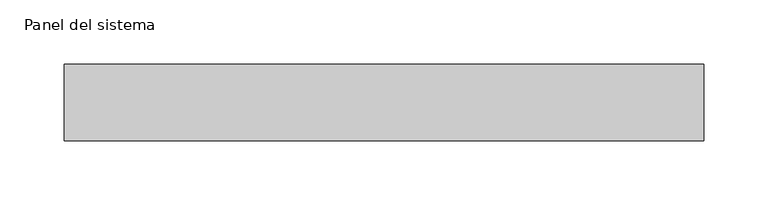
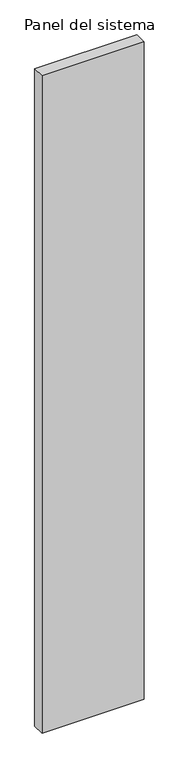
"""IFC4 building model written with IfcOpenShell, lengths in millimetres: plate geometry, Panel del sistema : HIANSA PANEL - PANELES DE CUBIERTA SIN TAPAJUNTA - EASY CUB 3GR - Esp. 60mm."""

import ifcopenshell
import ifcopenshell.guid

model = None  # the IFC model being written
_history = None  # IfcOwnerHistory: only IFC2X3 demands one
_inside = {}  # id of a spatial element -> (the spatial element, [elements in it])
_under = {}  # id of a project, library or spatial element -> (it, [spatial elements below it])
_declared = {}  # id of a project -> (the project, [libraries it declares])
_typed = {}  # id of a type object -> (the type object, [elements of that type])
_made_of = {}  # id of a material, layer set ... -> (it, [elements and type objects made of it])


def new_model(schema):
    """Start an empty IFC model of exactly this schema.

    Asked for "IFC4X3", IfcOpenShell would pick the latest addendum, in which some entities
    have other attributes; the version numbers below select the first issue.
    IFC2X3 requires an IfcOwnerHistory on every rooted entity: one is made here for all.
    """
    global model, _history
    if schema == "IFC4X3":
        model = ifcopenshell.file(schema_version=(4, 3, 0, 0))
    else:
        model = ifcopenshell.file(schema=schema)
    _inside.clear()
    _under.clear()
    _declared.clear()
    _typed.clear()
    _made_of.clear()
    _history = None
    if model.schema == "IFC2X3":
        org = make("IfcOrganization", Name="unknown")
        user = make(
            "IfcPersonAndOrganization",
            ThePerson=make("IfcPerson", FamilyName="unknown"),
            TheOrganization=org,
        )
        app = make(
            "IfcApplication",
            ApplicationDeveloper=org,
            Version="unknown",
            ApplicationFullName="unknown",
            ApplicationIdentifier="unknown",
        )
        _history = make(
            "IfcOwnerHistory",
            OwningUser=user,
            OwningApplication=app,
            ChangeAction="ADDED",
            CreationDate=0,
        )
    return model


def make(cls, **values):
    """One entity of the class cls with the attributes given. An attribute that is None is left unset."""
    return model.create_entity(
        cls, **{name: value for name, value in values.items() if value is not None}
    )


def rooted(cls, **values):
    """An entity with a GlobalId (a new one), such as an element, a storey or a relation."""
    return make(cls, GlobalId=ifcopenshell.guid.new(), OwnerHistory=_history, **values)


def si_unit(unit_type, name, prefix=None):
    """IfcSIUnit, for example si_unit("LENGTHUNIT", "METRE", prefix="MILLI")."""
    return make("IfcSIUnit", UnitType=unit_type, Prefix=prefix, Name=name)


def assignment(units):
    """IfcUnitAssignment: the units of a project."""
    return None if units is None else make("IfcUnitAssignment", Units=units)


def point(xyz):
    """IfcCartesianPoint."""
    return None if xyz is None else make("IfcCartesianPoint", Coordinates=xyz)


def direction(xyz):
    """IfcDirection."""
    return None if xyz is None else make("IfcDirection", DirectionRatios=xyz)


def frame(location, z_axis=None, x_axis=None):
    """IfcAxis2Placement3D, a coordinate frame: its origin and axes. An axis left out is left unset."""
    return make(
        "IfcAxis2Placement3D",
        Location=point(location),
        Axis=direction(z_axis),
        RefDirection=direction(x_axis),
    )


def origin():
    """The frame at (0, 0, 0) with its axes left unset."""
    return frame((0.0, 0.0, 0.0))


def origin_with_axes():
    """The frame at (0, 0, 0) with the z axis (0, 0, 1) and the x axis (1, 0, 0) written out."""
    return frame((0.0, 0.0, 0.0), z_axis=(0.0, 0.0, 1.0), x_axis=(1.0, 0.0, 0.0))


def place(relative_to, where):
    """IfcLocalPlacement: puts the frame where relative to a parent placement (None: the world)."""
    return make(
        "IfcLocalPlacement", PlacementRelTo=relative_to, RelativePlacement=where
    )


def context(
    kind, dimensions, precision=None, world=None, true_north=None, identifier=None
):
    """IfcGeometricRepresentationContext, for example the 3D "Model" context."""
    return make(
        "IfcGeometricRepresentationContext",
        ContextIdentifier=identifier,
        ContextType=kind,
        CoordinateSpaceDimension=dimensions,
        Precision=precision,
        WorldCoordinateSystem=world,
        TrueNorth=true_north,
    )


def project(units=None, contexts=None):
    """IfcProject with its units and contexts."""
    return rooted(
        "IfcProject",
        Name="project",
        RepresentationContexts=contexts,
        UnitsInContext=assignment(units),
    )


def spatial(cls, under=None, at=None, **own):
    """A site, building, storey or space (cls), placed at a placement, below another one or the project."""
    s = rooted(cls, ObjectPlacement=at, **own)
    if under is not None:
        _under.setdefault(under.id(), (under, []))[1].append(s)
    return s


def polyline(points):
    """IfcPolyline through the points."""
    return make("IfcPolyline", Points=[point(p) for p in points])


def outline(outer, holes=None, kind="AREA"):
    """IfcArbitraryClosedProfileDef: a profile drawn as a closed curve; with holes, ...WithVoids."""
    if holes is None:
        return make("IfcArbitraryClosedProfileDef", ProfileType=kind, OuterCurve=outer)
    return make(
        "IfcArbitraryProfileDefWithVoids",
        ProfileType=kind,
        OuterCurve=outer,
        InnerCurves=holes,
    )


def extrude(swept, where, along, depth):
    """IfcExtrudedAreaSolid: the profile swept, set in the frame where, extruded along a direction by depth."""
    return make(
        "IfcExtrudedAreaSolid",
        SweptArea=swept,
        Position=where,
        ExtrudedDirection=direction(along),
        Depth=depth,
    )


def shape(context_of_items, identifier, shape_type, items):
    """IfcShapeRepresentation: the items that make up one representation, for example the "Body"."""
    return make(
        "IfcShapeRepresentation",
        ContextOfItems=context_of_items,
        RepresentationIdentifier=identifier,
        RepresentationType=shape_type,
        Items=items,
    )


def source(mapping_origin, context_of_items, identifier, shape_type, items):
    """IfcRepresentationMap: a shape defined once, which mapped items show again and again."""
    return make(
        "IfcRepresentationMap",
        MappingOrigin=mapping_origin,
        MappedRepresentation=shape(context_of_items, identifier, shape_type, items),
    )


def transform(
    local_origin,
    x_axis=None,
    y_axis=None,
    z_axis=None,
    scale=None,
    scale2=None,
    scale3=None,
    uniform=True,
):
    """IfcCartesianTransformationOperator3D, or its non-uniform kind. x_axis, y_axis, z_axis: its Axis1, 2, 3."""
    if uniform:
        return make(
            "IfcCartesianTransformationOperator3D",
            Axis1=direction(x_axis),
            Axis2=direction(y_axis),
            LocalOrigin=point(local_origin),
            Scale=scale,
            Axis3=direction(z_axis),
        )
    return make(
        "IfcCartesianTransformationOperator3DnonUniform",
        Axis1=direction(x_axis),
        Axis2=direction(y_axis),
        LocalOrigin=point(local_origin),
        Scale=scale,
        Axis3=direction(z_axis),
        Scale2=scale2,
        Scale3=scale3,
    )


def mapped(mapping_source, mapping_target):
    """IfcMappedItem: shows the shape of a source again, moved by a transform."""
    return make(
        "IfcMappedItem", MappingSource=mapping_source, MappingTarget=mapping_target
    )


def made_of(thing, what):
    """Note that an element or type object is made of a material, layer set ...; save() writes the relation."""
    if what is not None:
        _made_of.setdefault(what.id(), (what, []))[1].append(thing)
    return thing


def element(
    cls,
    number,
    at=None,
    inside=None,
    cuts=None,
    type_object=None,
    material=None,
    context=None,
    identifier="Body",
    shape_type=None,
    held_by="IfcProductDefinitionShape",
    body=None,
    shapes=None,
    **own,
):
    """One element of the class cls, such as IfcWall. Its Tag is "e" and its number.

    at: its placement. inside: the storey or other place that contains it. cuts: it is an
    opening in that element (IfcRelVoidsElement). A single representation is given by context,
    identifier, shape_type and body (its items); several are given by shapes. held_by: the class
    of the entity that holds the representations. save() writes the other relations.
    """
    e = rooted(cls, Tag="e%d" % number, ObjectPlacement=at, **own)
    if body is not None:
        shapes = [shape(context, identifier, shape_type, body)]
    if shapes is not None:
        e.Representation = make(held_by, Representations=shapes)
    if inside is not None:
        _inside.setdefault(inside.id(), (inside, []))[1].append(e)
    if cuts is not None:
        rooted(
            "IfcRelVoidsElement", RelatingBuildingElement=cuts, RelatedOpeningElement=e
        )
    if type_object is not None:
        _typed.setdefault(type_object.id(), (type_object, []))[1].append(e)
    return made_of(e, material)


def aggregate(whole, parts):
    """IfcRelAggregates: a whole, such as a stair, and the parts it consists of."""
    return rooted("IfcRelAggregates", RelatingObject=whole, RelatedObjects=parts)


def save(model, path):
    """Write the relations noted so far, then the file.

    IfcRelAggregates (storeys below a building ...), IfcRelContainedInSpatialStructure (elements
    in a storey), IfcRelDefinesByType, IfcRelAssociatesMaterial and IfcRelDeclares: one each for
    every whole, place, type object, material and project.
    """
    for whole, parts in _under.values():
        aggregate(whole, parts)
    for where, things in _inside.values():
        rooted(
            "IfcRelContainedInSpatialStructure",
            RelatedElements=things,
            RelatingStructure=where,
        )
    for kind, things in _typed.values():
        rooted("IfcRelDefinesByType", RelatedObjects=things, RelatingType=kind)
    for what, things in _made_of.values():
        rooted("IfcRelAssociatesMaterial", RelatedObjects=things, RelatingMaterial=what)
    for by, libraries in _declared.values():
        rooted("IfcRelDeclares", RelatingContext=by, RelatedDefinitions=libraries)
    model.write(path)


def panel_del_sistema_f4682724(model_context):
    return source(origin(), model_context, "Body", "SweptSolid", [
        extrude(outline(polyline([(249.9999998, 0.0), (-249.9999998, 0.0), (-249.9999998, 60.0), (249.9999998, 60.0), (249.9999998, 0.0)])), origin_with_axes(), (0.0, 0.0, 1.0), 3390.8509027),
    ])


if __name__ == "__main__":
    model = new_model("IFC4")
    model_context = context("Model", 3, world=origin())
    ifc_project = project(units=[si_unit("LENGTHUNIT", "METRE", prefix="MILLI")], contexts=[model_context])
    site = spatial("IfcSite", under=ifc_project)
    building = spatial("IfcBuilding", under=site)
    placement = place(None, origin())
    panel_del_sistema_shape = panel_del_sistema_f4682724(model_context)
    element("IfcPlate", 1, ObjectType="Panel del sistema : HIANSA PANEL - PANELES DE CUBIERTA SIN TAPAJUNTA - EASY CUB 3GR - Esp. 60mm", at=placement, inside=building, context=model_context, shape_type="MappedRepresentation", body=[
        mapped(panel_del_sistema_shape, transform((0.0, 0.0, 0.0), x_axis=(1.0, 0.0, 0.0), y_axis=(0.0, 1.0, 0.0), z_axis=(0.0, 0.0, 1.0))),
    ])
    save(model, "model.ifc")
